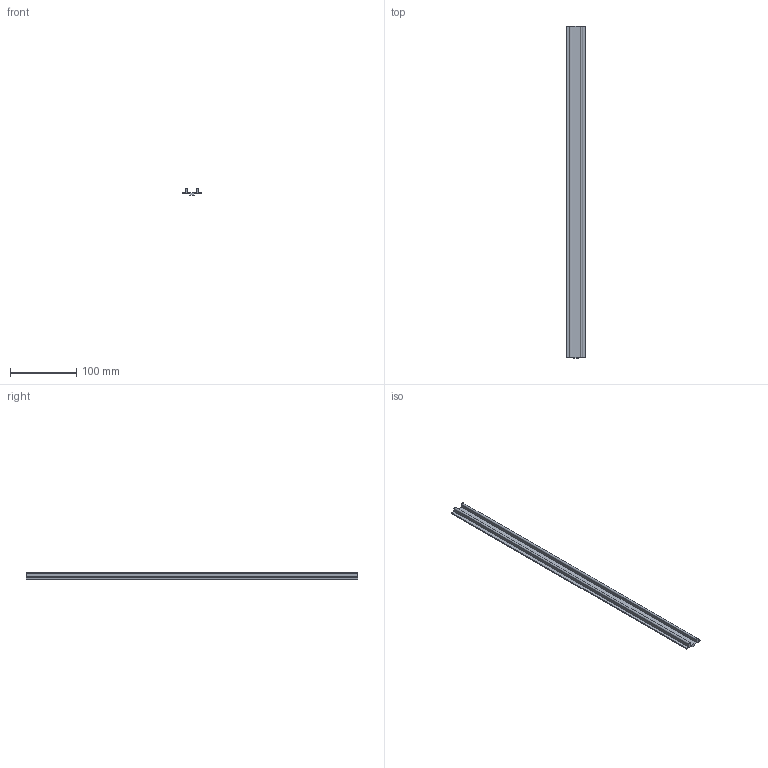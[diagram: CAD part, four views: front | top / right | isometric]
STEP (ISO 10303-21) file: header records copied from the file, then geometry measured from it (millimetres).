
FILE_DESCRIPTION(/* description */ ('Unknown'),/* implementation_level */ '2;1');
FILE_NAME(/* name */ 'DR06',/* time_stamp */ '2026-09-02T11:57:30+08:00',/* author */ ('Unknown'),/* organization */ ('Unknown'),/* preprocessor_version */ 'ST-DEVELOPER v16.7',/* originating_system */ 'DEX',/* authorisation */ $);
FILE_SCHEMA (('AUTOMOTIVE_DESIGN {1 0 10303 214 3 1 1}'));
Length unit declared in the file: millimetre
Products named in the file (1): DR06
Bounding box: 30 x 500 x 10 mm (x, y, z)
Volume: 51850.6 mm3; surface area: 45076.4 mm2
Topology: 1 solids, 1 shells, 18 faces, 48 edges, 32 vertices
Faces by surface type: plane 16, cylinder 2
Entity records: 706 total; most frequent: CARTESIAN_POINT 99, ORIENTED_EDGE 96, DIRECTION 90, EDGE_CURVE 48, LINE 44, VECTOR 44, VERTEX_POINT 32, AXIS2_PLACEMENT_3D 23
